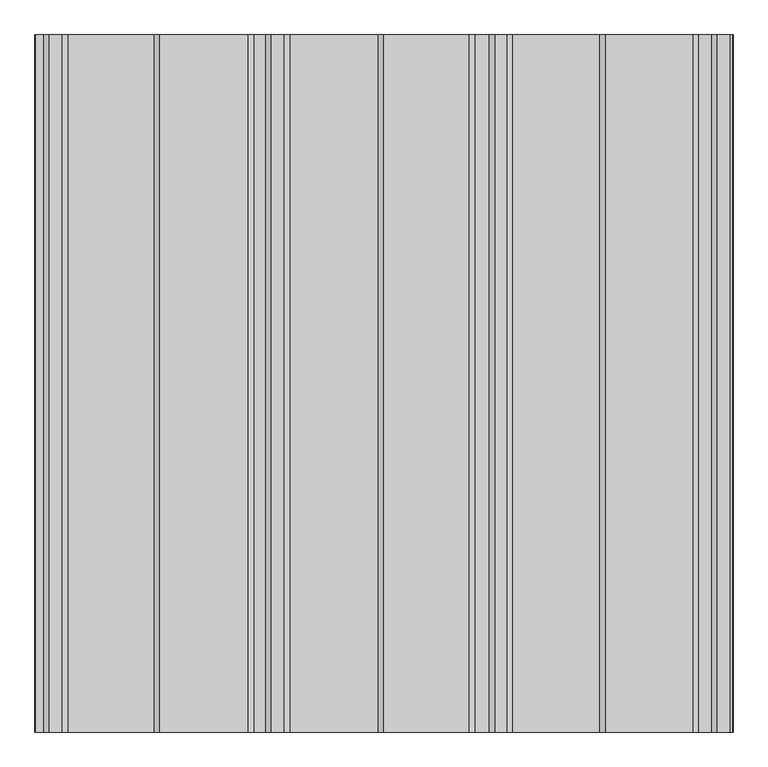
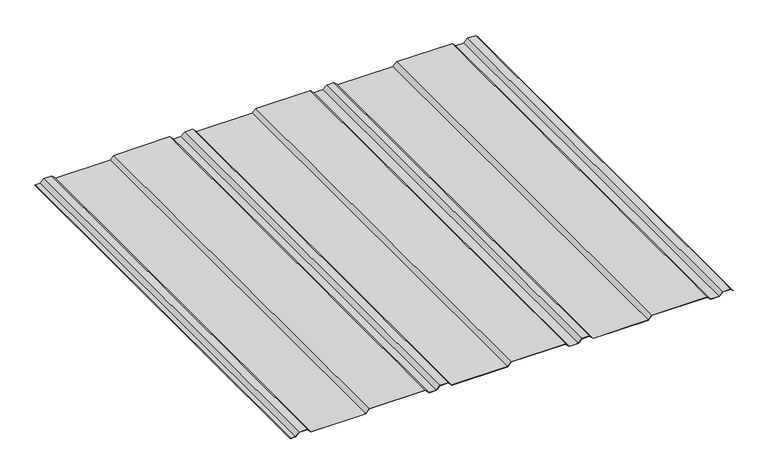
"""IFC4 building model written with IfcOpenShell, lengths in millimetres: proxy geometry, AQUAPLAST - W-Panel : RR 11 ZIELONY."""

import ifcopenshell
import ifcopenshell.guid

model = None  # the IFC model being written
_history = None  # IfcOwnerHistory: only IFC2X3 demands one
_inside = {}  # id of a spatial element -> (the spatial element, [elements in it])
_under = {}  # id of a project, library or spatial element -> (it, [spatial elements below it])
_declared = {}  # id of a project -> (the project, [libraries it declares])
_typed = {}  # id of a type object -> (the type object, [elements of that type])
_made_of = {}  # id of a material, layer set ... -> (it, [elements and type objects made of it])


def new_model(schema):
    """Start an empty IFC model of exactly this schema.

    Asked for "IFC4X3", IfcOpenShell would pick the latest addendum, in which some entities
    have other attributes; the version numbers below select the first issue.
    IFC2X3 requires an IfcOwnerHistory on every rooted entity: one is made here for all.
    """
    global model, _history
    if schema == "IFC4X3":
        model = ifcopenshell.file(schema_version=(4, 3, 0, 0))
    else:
        model = ifcopenshell.file(schema=schema)
    _inside.clear()
    _under.clear()
    _declared.clear()
    _typed.clear()
    _made_of.clear()
    _history = None
    if model.schema == "IFC2X3":
        org = make("IfcOrganization", Name="unknown")
        user = make(
            "IfcPersonAndOrganization",
            ThePerson=make("IfcPerson", FamilyName="unknown"),
            TheOrganization=org,
        )
        app = make(
            "IfcApplication",
            ApplicationDeveloper=org,
            Version="unknown",
            ApplicationFullName="unknown",
            ApplicationIdentifier="unknown",
        )
        _history = make(
            "IfcOwnerHistory",
            OwningUser=user,
            OwningApplication=app,
            ChangeAction="ADDED",
            CreationDate=0,
        )
    return model


def make(cls, **values):
    """One entity of the class cls with the attributes given. An attribute that is None is left unset."""
    return model.create_entity(
        cls, **{name: value for name, value in values.items() if value is not None}
    )


def rooted(cls, **values):
    """An entity with a GlobalId (a new one), such as an element, a storey or a relation."""
    return make(cls, GlobalId=ifcopenshell.guid.new(), OwnerHistory=_history, **values)


def si_unit(unit_type, name, prefix=None):
    """IfcSIUnit, for example si_unit("LENGTHUNIT", "METRE", prefix="MILLI")."""
    return make("IfcSIUnit", UnitType=unit_type, Prefix=prefix, Name=name)


def assignment(units):
    """IfcUnitAssignment: the units of a project."""
    return None if units is None else make("IfcUnitAssignment", Units=units)


def point(xyz):
    """IfcCartesianPoint."""
    return None if xyz is None else make("IfcCartesianPoint", Coordinates=xyz)


def direction(xyz):
    """IfcDirection."""
    return None if xyz is None else make("IfcDirection", DirectionRatios=xyz)


def frame(location, z_axis=None, x_axis=None):
    """IfcAxis2Placement3D, a coordinate frame: its origin and axes. An axis left out is left unset."""
    return make(
        "IfcAxis2Placement3D",
        Location=point(location),
        Axis=direction(z_axis),
        RefDirection=direction(x_axis),
    )


def origin():
    """The frame at (0, 0, 0) with its axes left unset."""
    return frame((0.0, 0.0, 0.0))


def place(relative_to, where):
    """IfcLocalPlacement: puts the frame where relative to a parent placement (None: the world)."""
    return make(
        "IfcLocalPlacement", PlacementRelTo=relative_to, RelativePlacement=where
    )


def context(
    kind, dimensions, precision=None, world=None, true_north=None, identifier=None
):
    """IfcGeometricRepresentationContext, for example the 3D "Model" context."""
    return make(
        "IfcGeometricRepresentationContext",
        ContextIdentifier=identifier,
        ContextType=kind,
        CoordinateSpaceDimension=dimensions,
        Precision=precision,
        WorldCoordinateSystem=world,
        TrueNorth=true_north,
    )


def project(units=None, contexts=None):
    """IfcProject with its units and contexts."""
    return rooted(
        "IfcProject",
        Name="project",
        RepresentationContexts=contexts,
        UnitsInContext=assignment(units),
    )


def spatial(cls, under=None, at=None, **own):
    """A site, building, storey or space (cls), placed at a placement, below another one or the project."""
    s = rooted(cls, ObjectPlacement=at, **own)
    if under is not None:
        _under.setdefault(under.id(), (under, []))[1].append(s)
    return s


def polyline(points):
    """IfcPolyline through the points."""
    return make("IfcPolyline", Points=[point(p) for p in points])


def outline(outer, holes=None, kind="AREA"):
    """IfcArbitraryClosedProfileDef: a profile drawn as a closed curve; with holes, ...WithVoids."""
    if holes is None:
        return make("IfcArbitraryClosedProfileDef", ProfileType=kind, OuterCurve=outer)
    return make(
        "IfcArbitraryProfileDefWithVoids",
        ProfileType=kind,
        OuterCurve=outer,
        InnerCurves=holes,
    )


def extrude(swept, where, along, depth):
    """IfcExtrudedAreaSolid: the profile swept, set in the frame where, extruded along a direction by depth."""
    return make(
        "IfcExtrudedAreaSolid",
        SweptArea=swept,
        Position=where,
        ExtrudedDirection=direction(along),
        Depth=depth,
    )


def shape(context_of_items, identifier, shape_type, items):
    """IfcShapeRepresentation: the items that make up one representation, for example the "Body"."""
    return make(
        "IfcShapeRepresentation",
        ContextOfItems=context_of_items,
        RepresentationIdentifier=identifier,
        RepresentationType=shape_type,
        Items=items,
    )


def source(mapping_origin, context_of_items, identifier, shape_type, items):
    """IfcRepresentationMap: a shape defined once, which mapped items show again and again."""
    return make(
        "IfcRepresentationMap",
        MappingOrigin=mapping_origin,
        MappedRepresentation=shape(context_of_items, identifier, shape_type, items),
    )


def transform(
    local_origin,
    x_axis=None,
    y_axis=None,
    z_axis=None,
    scale=None,
    scale2=None,
    scale3=None,
    uniform=True,
):
    """IfcCartesianTransformationOperator3D, or its non-uniform kind. x_axis, y_axis, z_axis: its Axis1, 2, 3."""
    if uniform:
        return make(
            "IfcCartesianTransformationOperator3D",
            Axis1=direction(x_axis),
            Axis2=direction(y_axis),
            LocalOrigin=point(local_origin),
            Scale=scale,
            Axis3=direction(z_axis),
        )
    return make(
        "IfcCartesianTransformationOperator3DnonUniform",
        Axis1=direction(x_axis),
        Axis2=direction(y_axis),
        LocalOrigin=point(local_origin),
        Scale=scale,
        Axis3=direction(z_axis),
        Scale2=scale2,
        Scale3=scale3,
    )


def mapped(mapping_source, mapping_target):
    """IfcMappedItem: shows the shape of a source again, moved by a transform."""
    return make(
        "IfcMappedItem", MappingSource=mapping_source, MappingTarget=mapping_target
    )


def made_of(thing, what):
    """Note that an element or type object is made of a material, layer set ...; save() writes the relation."""
    if what is not None:
        _made_of.setdefault(what.id(), (what, []))[1].append(thing)
    return thing


def element(
    cls,
    number,
    at=None,
    inside=None,
    cuts=None,
    type_object=None,
    material=None,
    context=None,
    identifier="Body",
    shape_type=None,
    held_by="IfcProductDefinitionShape",
    body=None,
    shapes=None,
    **own,
):
    """One element of the class cls, such as IfcWall. Its Tag is "e" and its number.

    at: its placement. inside: the storey or other place that contains it. cuts: it is an
    opening in that element (IfcRelVoidsElement). A single representation is given by context,
    identifier, shape_type and body (its items); several are given by shapes. held_by: the class
    of the entity that holds the representations. save() writes the other relations.
    """
    e = rooted(cls, Tag="e%d" % number, ObjectPlacement=at, **own)
    if body is not None:
        shapes = [shape(context, identifier, shape_type, body)]
    if shapes is not None:
        e.Representation = make(held_by, Representations=shapes)
    if inside is not None:
        _inside.setdefault(inside.id(), (inside, []))[1].append(e)
    if cuts is not None:
        rooted(
            "IfcRelVoidsElement", RelatingBuildingElement=cuts, RelatedOpeningElement=e
        )
    if type_object is not None:
        _typed.setdefault(type_object.id(), (type_object, []))[1].append(e)
    return made_of(e, material)


def aggregate(whole, parts):
    """IfcRelAggregates: a whole, such as a stair, and the parts it consists of."""
    return rooted("IfcRelAggregates", RelatingObject=whole, RelatedObjects=parts)


def save(model, path):
    """Write the relations noted so far, then the file.

    IfcRelAggregates (storeys below a building ...), IfcRelContainedInSpatialStructure (elements
    in a storey), IfcRelDefinesByType, IfcRelAssociatesMaterial and IfcRelDeclares: one each for
    every whole, place, type object, material and project.
    """
    for whole, parts in _under.values():
        aggregate(whole, parts)
    for where, things in _inside.values():
        rooted(
            "IfcRelContainedInSpatialStructure",
            RelatedElements=things,
            RelatingStructure=where,
        )
    for kind, things in _typed.values():
        rooted("IfcRelDefinesByType", RelatedObjects=things, RelatingType=kind)
    for what, things in _made_of.values():
        rooted("IfcRelAssociatesMaterial", RelatedObjects=things, RelatingMaterial=what)
    for by, libraries in _declared.values():
        rooted("IfcRelDeclares", RelatingContext=by, RelatedDefinitions=libraries)
    model.write(path)


def specialty_equipment_2fd32254(model_context):
    return source(origin(), model_context, "Body", "SweptSolid", [
        extrude(outline(polyline([(50.0, -587.9438713), (60.0, -577.9438713), (60.0, -556.226294), (50.0, -546.226294), (50.0, -397.6417131), (60.0, -387.6417131), (60.0, -235.9241358), (50.0, -225.9241358), (50.0, -205.9241358), (60.0, -195.9241358), (60.0, -174.2065585), (50.0, -164.2065585), (50.0, -12.520379), (60.0, -2.520379), (60.0, 144.1971983), (50.0, 154.1971983), (50.0, 179.1971983), (60.0, 189.1971983), (60.0, 208.9370534), (50.0, 218.9370534), (50.0, 368.9370534), (60.0, 378.9370534), (60.0, 529.1135982), (50.5, 538.6135982), (50.5, 560.9464217), (60.5, 570.9464217), (60.5, 593.0782125), (54.6782125, 598.9), (55.4643393, 598.6138733), (61.0, 593.0782125), (61.0, 570.9464217), (51.0, 560.9464217), (51.0, 538.820705), (60.5, 529.320705), (60.5, 378.7299466), (50.5, 368.7299466), (50.5, 219.1441602), (60.5, 209.1441602), (60.5, 188.9900915), (50.5, 178.9900915), (50.5, 154.404305), (60.5, 144.404305), (60.5, -2.7274858), (50.5, -12.7274858), (50.5, -163.9994518), (60.5, -173.9994518), (60.5, -196.1312426), (50.5, -206.1312426), (50.5, -225.717029), (60.5, -235.717029), (60.5, -387.8488199), (50.5, -397.8488199), (50.5, -546.0191872), (60.5, -556.0191872), (60.5, -578.150978), (50.5, -588.150978), (50.5, -601.385926), (50.0, -602.1), (50.0, -587.9438713)])), frame((0.0, -1200.0, 0.0), z_axis=(0.0, 1.0, 0.0), x_axis=(0.0, 0.0, 1.0)), (0.0, 0.0, 1.0), 1200.0),
    ])


if __name__ == "__main__":
    model = new_model("IFC4")
    model_context = context("Model", 3, world=origin())
    ifc_project = project(units=[si_unit("LENGTHUNIT", "METRE", prefix="MILLI")], contexts=[model_context])
    site = spatial("IfcSite", under=ifc_project)
    building = spatial("IfcBuilding", under=site)
    placement = place(None, origin())
    specialty_equipment_shape = specialty_equipment_2fd32254(model_context)
    element("IfcBuildingElementProxy", 1, Name="AQUAPLAST - W-Panel : RR 11 ZIELONY", ObjectType="AQUAPLAST - W-Panel : RR 11 ZIELONY", at=placement, inside=building, context=model_context, shape_type="MappedRepresentation", body=[
        mapped(specialty_equipment_shape, transform((0.0, 0.0, 0.0), x_axis=(1.0, 0.0, 0.0), y_axis=(0.0, 1.0, 0.0), z_axis=(0.0, 0.0, 1.0))),
    ])
    save(model, "model.ifc")
